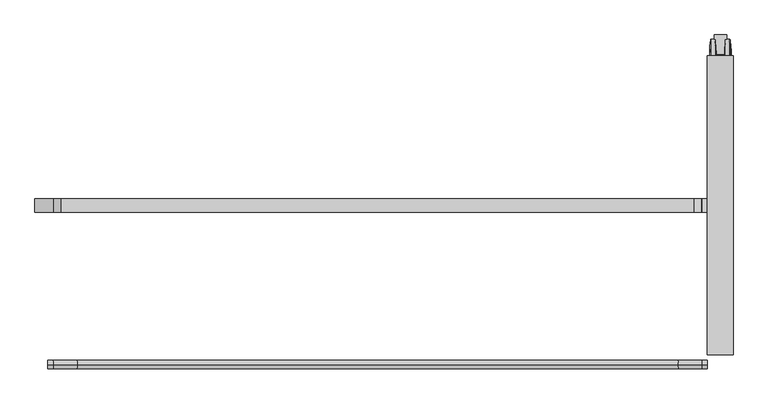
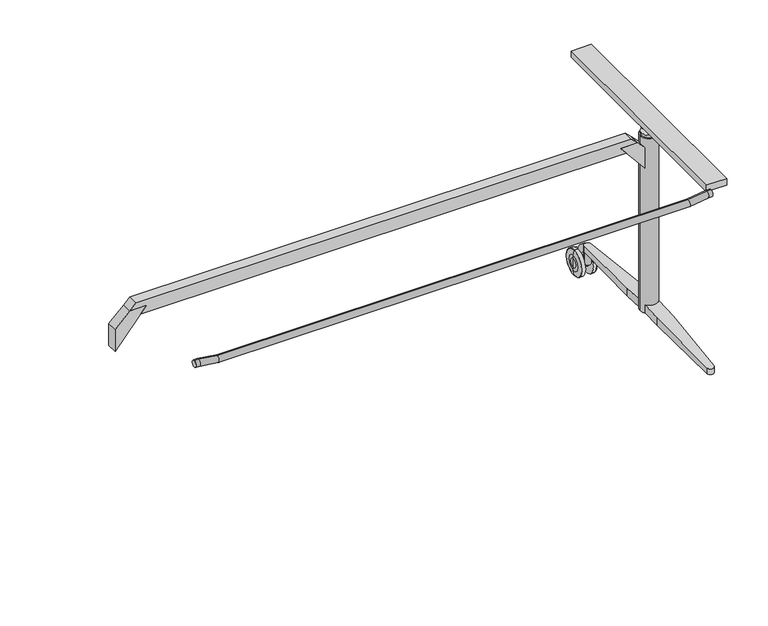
"""IFC4 building model written with IfcOpenShell, lengths in millimetres: furniture geometry, Table_Foldable_Wilkhahn_TimetableLift_Whiteboard : 1800w x 900d (615/10)."""

from ifc_helpers import new_model, si_unit, point, frame, frame_2d, origin, place, context, project, spatial, polyline, circle_curve, ellipse_curve, trimmed, segment, composite_curve, outline, extrude, source, transform, mapped, element, save
from ifc_brep_helpers import plane_surface, cylinder_surface, revolved_surface, advanced_brep


def furniture_42c79fa8(model_context):
    return source(origin(), model_context, "Body", "SolidModel", [
        advanced_brep(
        [(770.4530674, 470.9511544, 26.9613134), (770.4530674, 470.9511544, 53.0387194), (770.4530674, 470.9511544, 40.0000164), (772.5845915, 470.9511544, 0.8972162), (772.5845915, 470.9511544, 79.1028166), (771.0121742, 470.9511544, 63.8876748), (771.0121742, 470.9511544, 16.1123581), (783.5439759, 470.9511544, 1.43e-05), (783.5439759, 470.9511544, 80.0000185), (773.5792938, 470.9511544, 80.0000185), (773.5792938, 470.9511544, 1.43e-05), (785.4530966, 470.9511544, 20.9999281), (785.4530966, 470.9511544, 59.0001048), (785.4530966, 470.9511544, 32.3463502), (785.4530966, 470.9511544, 47.6536826), (805.3531174, 470.9511544, 32.3463502), (805.3531174, 470.9511544, 47.6536826), (805.3531174, 470.9511544, 20.9999281), (805.3531174, 470.9511544, 59.0001048), (807.2622381, 470.9511544, 1.43e-05), (807.2622381, 470.9511544, 80.0000185), (816.3249398, 470.9511544, 1.43e-05), (816.3249398, 470.9511544, 80.0000185), (819.7942336, 470.9511544, 16.1142331), (819.7942336, 470.9511544, 63.8857997), (818.3143443, 470.9511544, 78.2056147), (818.3143443, 470.9511544, 1.7944182), (820.3531466, 470.9511544, 40.0000164), (820.3531466, 470.9511544, 53.0406045), (820.3531466, 470.9511544, 26.9594284)],
        [
            (0, 1, circle_curve(frame((770.4530674, 470.9511544, 40.0000164), z_axis=(-1.0, 0.0, 0.0), x_axis=(0.0, 0.0, 1.0)), 13.038703)),
            (1, 2),
            (2, 0),
            (1, 0, circle_curve(frame((770.4530674, 470.9511544, 40.0000164), z_axis=(-1.0, 0.0, 0.0), x_axis=(0.0, 0.0, 1.0)), 13.038703)),
            (3, 4, circle_curve(frame((772.5845915, 470.9511544, 40.0000164), z_axis=(-1.0, 0.0, 0.0), x_axis=(0.0, 0.0, 1.0)), 39.1028002)),
            (4, 5),
            (5, 6, circle_curve(frame((771.0121742, 470.9511544, 40.0000164), z_axis=(1.0, 0.0, 0.0), x_axis=(0.0, 0.0, 1.0)), 23.8876584)),
            (6, 3),
            (4, 3, circle_curve(frame((772.5845915, 470.9511544, 40.0000164), z_axis=(-1.0, 0.0, 0.0), x_axis=(0.0, 0.0, 1.0)), 39.1028002)),
            (6, 5, circle_curve(frame((771.0121742, 470.9511544, 40.0000164), z_axis=(1.0, 0.0, 0.0), x_axis=(0.0, 0.0, 1.0)), 23.8876584)),
            (7, 8, circle_curve(frame((783.5439759, 470.9511544, 40.0000164), z_axis=(-1.0, 0.0, 0.0), x_axis=(0.0, 0.0, 1.0)), 40.0000021)),
            (8, 9),
            (9, 10, circle_curve(frame((773.5792938, 470.9511544, 40.0000164), z_axis=(1.0, 0.0, 0.0), x_axis=(0.0, 0.0, 1.0)), 40.0000021)),
            (10, 7),
            (8, 7, circle_curve(frame((783.5439759, 470.9511544, 40.0000164), z_axis=(-1.0, 0.0, 0.0), x_axis=(0.0, 0.0, 1.0)), 40.0000021)),
            (10, 9, circle_curve(frame((773.5792938, 470.9511544, 40.0000164), z_axis=(1.0, 0.0, 0.0), x_axis=(0.0, 0.0, 1.0)), 40.0000021)),
            (11, 12, circle_curve(frame((785.4530966, 470.9511544, 40.0000164), z_axis=(-1.0, 0.0, 0.0), x_axis=(0.0, 0.0, 1.0)), 19.0000883)),
            (12, 8),
            (7, 11),
            (12, 11, circle_curve(frame((785.4530966, 470.9511544, 40.0000164), z_axis=(-1.0, 0.0, 0.0), x_axis=(0.0, 0.0, 1.0)), 19.0000883)),
            (13, 14, circle_curve(frame((785.4530966, 470.9511544, 40.0000164), z_axis=(-1.0, 0.0, 0.0), x_axis=(0.0, 0.0, 1.0)), 7.6536662)),
            (14, 12),
            (11, 13),
            (14, 13, circle_curve(frame((785.4530966, 470.9511544, 40.0000164), z_axis=(-1.0, 0.0, 0.0), x_axis=(0.0, 0.0, 1.0)), 7.6536662)),
            (15, 16, circle_curve(frame((805.3531174, 470.9511544, 40.0000164), z_axis=(-1.0, 0.0, 0.0), x_axis=(0.0, 0.0, 1.0)), 7.6536662)),
            (16, 14),
            (13, 15),
            (16, 15, circle_curve(frame((805.3531174, 470.9511544, 40.0000164), z_axis=(-1.0, 0.0, 0.0), x_axis=(0.0, 0.0, 1.0)), 7.6536662)),
            (17, 18, circle_curve(frame((805.3531174, 470.9511544, 40.0000164), z_axis=(-1.0, 0.0, 0.0), x_axis=(0.0, 0.0, 1.0)), 19.0000883)),
            (18, 16),
            (15, 17),
            (18, 17, circle_curve(frame((805.3531174, 470.9511544, 40.0000164), z_axis=(-1.0, 0.0, 0.0), x_axis=(0.0, 0.0, 1.0)), 19.0000883)),
            (19, 20, circle_curve(frame((807.2622381, 470.9511544, 40.0000164), z_axis=(-1.0, 0.0, 0.0), x_axis=(0.0, 0.0, 1.0)), 40.0000021)),
            (20, 18),
            (17, 19),
            (20, 19, circle_curve(frame((807.2622381, 470.9511544, 40.0000164), z_axis=(-1.0, 0.0, 0.0), x_axis=(0.0, 0.0, 1.0)), 40.0000021)),
            (21, 22, circle_curve(frame((816.3249398, 470.9511544, 40.0000164), z_axis=(-1.0, 0.0, 0.0), x_axis=(0.0, 0.0, 1.0)), 40.0000021)),
            (22, 20),
            (19, 21),
            (22, 21, circle_curve(frame((816.3249398, 470.9511544, 40.0000164), z_axis=(-1.0, 0.0, 0.0), x_axis=(0.0, 0.0, 1.0)), 40.0000021)),
            (23, 24, circle_curve(frame((819.7942336, 470.9511544, 40.0000164), z_axis=(-1.0, 0.0, 0.0), x_axis=(0.0, 0.0, 1.0)), 23.8857833)),
            (24, 25),
            (25, 26, circle_curve(frame((818.3143443, 470.9511544, 40.0000164), z_axis=(1.0, 0.0, 0.0), x_axis=(0.0, 0.0, 1.0)), 38.2055982)),
            (26, 23),
            (24, 23, circle_curve(frame((819.7942336, 470.9511544, 40.0000164), z_axis=(-1.0, 0.0, 0.0), x_axis=(0.0, 0.0, 1.0)), 23.8857833)),
            (26, 25, circle_curve(frame((818.3143443, 470.9511544, 40.0000164), z_axis=(1.0, 0.0, 0.0), x_axis=(0.0, 0.0, 1.0)), 38.2055982)),
            (27, 28),
            (28, 29, circle_curve(frame((820.3531466, 470.9511544, 40.0000164), z_axis=(1.0, 0.0, 0.0), x_axis=(0.0, 0.0, 1.0)), 13.0405881)),
            (29, 27),
            (29, 28, circle_curve(frame((820.3531466, 470.9511544, 40.0000164), z_axis=(1.0, 0.0, 0.0), x_axis=(0.0, 0.0, 1.0)), 13.0405881)),
            (5, 1, circle_curve(frame((875.9896451, 470.9511544, 53.0387194), z_axis=(0.0, -1.0, 0.0), x_axis=(-1.0, 0.0, 0.0)), 105.5365777)),
            (0, 6, circle_curve(frame((875.9896451, 470.9511544, 26.9613134), z_axis=(0.0, -1.0, 0.0), x_axis=(-1.0, 0.0, 0.0)), 105.5365777)),
            (9, 4, circle_curve(frame((773.5792938, 470.9511544, 79.0000185), z_axis=(0.0, -1.0, 0.0), x_axis=(-1.0, 0.0, 0.0)), 1.0)),
            (3, 10, circle_curve(frame((773.5792938, 470.9511544, 1.0000143), z_axis=(0.0, -1.0, 0.0), x_axis=(-1.0, 0.0, 0.0)), 1.0)),
            (25, 22, circle_curve(frame((816.3249398, 470.9511544, 78.0000185), z_axis=(0.0, -1.0, 0.0), x_axis=(-1.0, 0.0, 0.0)), 2.0)),
            (21, 26, circle_curve(frame((816.3249398, 470.9511544, 2.0000143), z_axis=(0.0, -1.0, 0.0), x_axis=(-1.0, 0.0, 0.0)), 2.0)),
            (28, 24, circle_curve(frame((714.8531466, 470.9511544, 53.0406045), z_axis=(0.0, -1.0, 0.0), x_axis=(-1.0, 0.0, 0.0)), 105.5)),
            (23, 29, circle_curve(frame((714.8531466, 470.9511544, 26.9594284), z_axis=(0.0, -1.0, 0.0), x_axis=(-1.0, 0.0, 0.0)), 105.5)),
        ],
        [
            plane_surface(frame((770.4530674, 470.9511544, 40.0000164), z_axis=(-1.0, 0.0, 0.0), x_axis=(0.0, 0.0, 1.0))),
            revolved_surface(polyline([(771.0121742, 470.9511544, 63.8876748), (772.5845915, 470.9511544, 79.1028166)]), (836.1531192, 470.9511544, 40.0000164), (1.0, 0.0, 0.0)),
            cylinder_surface(frame((836.1531192, 470.9511544, 40.0000164), z_axis=(1.0, 0.0, 0.0), x_axis=(0.0, 0.0, 1.0)), 40.0000021),
            revolved_surface(polyline([(783.5439759, 470.9511544, 80.0000185), (785.4530966, 470.9511544, 59.0001048)]), (836.1531192, 470.9511544, 40.0000164), (1.0, 0.0, 0.0)),
            plane_surface(frame((785.4530966, 470.9511544, 40.0000164), z_axis=(1.0, 0.0, 0.0), x_axis=(0.0, 0.0, 1.0))),
            cylinder_surface(frame((836.1531192, 470.9511544, 40.0000164), z_axis=(1.0, 0.0, 0.0), x_axis=(0.0, 0.0, 1.0)), 7.6536662),
            plane_surface(frame((805.3531174, 470.9511544, 40.0000164), z_axis=(-1.0, 0.0, 0.0), x_axis=(0.0, 0.0, 1.0))),
            revolved_surface(polyline([(805.3531174, 470.9511544, 59.0001048), (807.2622381, 470.9511544, 80.0000185)]), (836.1531192, 470.9511544, 40.0000164), (1.0, 0.0, 0.0)),
            revolved_surface(polyline([(818.3143443, 470.9511544, 78.2056147), (819.7942336, 470.9511544, 63.8857997)]), (836.1531192, 470.9511544, 40.0000164), (1.0, 0.0, 0.0)),
            plane_surface(frame((820.3531466, 470.9511544, 40.0000164), z_axis=(1.0, 0.0, 0.0), x_axis=(0.0, 0.0, 1.0))),
            revolved_surface(trimmed(ellipse_curve(frame((875.9896451, 470.9511544, 53.0387194), z_axis=(0.0, 1.0, 0.0), x_axis=(-1.0, 0.0, 0.0)), 105.5365777, 105.5365777), [point((770.4530674, 470.9511544, 53.0387194))], [point((771.0121742, 470.9511544, 63.8876748))], True, "CARTESIAN"), (836.1531192, 470.9511544, 40.0000164), (1.0, 0.0, 0.0)),
            revolved_surface(trimmed(ellipse_curve(frame((773.5792938, 470.9511544, 79.0000185), z_axis=(0.0, 1.0, 0.0), x_axis=(-1.0, 0.0, 0.0)), 1.0, 1.0), [point((772.5845915, 470.9511544, 79.1028166))], [point((773.5792938, 470.9511544, 80.0000185))], True, "CARTESIAN"), (836.1531192, 470.9511544, 40.0000164), (1.0, 0.0, 0.0)),
            revolved_surface(trimmed(ellipse_curve(frame((816.3249398, 470.9511544, 78.0000185), z_axis=(0.0, 1.0, 0.0), x_axis=(-1.0, 0.0, 0.0)), 2.0, 2.0), [point((816.3249398, 470.9511544, 80.0000185))], [point((818.3143443, 470.9511544, 78.2056147))], True, "CARTESIAN"), (836.1531192, 470.9511544, 40.0000164), (1.0, 0.0, 0.0)),
            revolved_surface(trimmed(ellipse_curve(frame((714.8531466, 470.9511544, 53.0406045), z_axis=(0.0, 1.0, 0.0), x_axis=(-1.0, 0.0, 0.0)), 105.5, 105.5), [point((819.7942336, 470.9511544, 63.8857997))], [point((820.3531466, 470.9511544, 53.0406045))], True, "CARTESIAN"), (836.1531192, 470.9511544, 40.0000164), (1.0, 0.0, 0.0)),
        ],
        [
            (0, [[1, 2, 3]]),
            (0, [[4, -3, -2]]),
            (1, [[5, 6, 7, 8]]),
            (1, [[9, -8, 10, -6]]),
            (2, [[11, 12, 13, 14]]),
            (2, [[15, -14, 16, -12]]),
            (3, [[17, 18, -11, 19]]),
            (3, [[20, -19, -15, -18]]),
            (4, [[21, 22, -17, 23]]),
            (4, [[24, -23, -20, -22]]),
            (5, [[25, 26, -21, 27]]),
            (5, [[28, -27, -24, -26]]),
            (6, [[29, 30, -25, 31]]),
            (6, [[32, -31, -28, -30]]),
            (7, [[33, 34, -29, 35]]),
            (7, [[36, -35, -32, -34]]),
            (2, [[37, 38, -33, 39]]),
            (2, [[40, -39, -36, -38]]),
            (8, [[41, 42, 43, 44]]),
            (8, [[45, -44, 46, -42]]),
            (9, [[47, 48, 49]]),
            (9, [[-49, 50, -47]]),
            (10, [[-7, 51, -1, 52]]),
            (10, [[-10, -52, -4, -51]]),
            (11, [[-13, 53, -5, 54]]),
            (11, [[-16, -54, -9, -53]]),
            (12, [[-43, 55, -37, 56]]),
            (12, [[-46, -56, -40, -55]]),
            (13, [[-48, 57, -41, 58]]),
            (13, [[-50, -58, -45, -57]]),
        ],
    ),
        advanced_brep(
        [(815.0000252, 110.1174444, 100.5064747), (815.0000252, 110.1174444, 125.9916346), (815.0000252, 36.3357458, 121.2672568), (815.0000252, 36.3357458, 97.6123077), (775.0000252, 110.1174444, 125.9916346), (775.0000252, 110.1174444, 100.5064747), (775.0000252, 51.0810607, 98.1907086), (775.0000252, 51.0810607, 122.2114264), (805.336693, -188.0675149, 88.8098467), (785.2872838, -188.0675149, 88.8098467), (785.3284401, -189.0242798, 106.8370403), (805.2954923, -189.0242831, 106.8370401), (805.2954923, -189.0242831, 88.8098467), (785.3284401, -189.0242798, 88.8098467)],
        [
            (0, 1),
            (1, 2),
            (2, 3),
            (3, 0),
            (4, 5),
            (5, 6),
            (6, 7),
            (7, 4),
            (5, 0),
            (3, 8),
            (8, 9),
            (9, 6),
            (1, 4),
            (7, 10),
            (10, 11, ellipse_curve(frame((795.3119663, -188.4505156, 106.8737795), z_axis=(0.0, -0.06390097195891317, 0.9979562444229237), x_axis=(0.0, -0.9979562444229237, -0.06390097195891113)), 10.0204794, 10.0)),
            (11, 2),
            (8, 12),
            (12, 13, circle_curve(frame((795.3119663, -188.4505156, 88.8098467), z_axis=(0.0, 0.0, -1.0), x_axis=(-1.0, 0.0, 0.0)), 10.0)),
            (13, 9),
            (13, 10),
            (12, 11),
        ],
        [
            plane_surface(frame((815.0000252, 110.1174444, 100.5064747), z_axis=(1.0, 0.0, 0.0), x_axis=(0.0, 0.9992315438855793, 0.0391959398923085))),
            plane_surface(frame((775.0000252, 110.1174444, 100.5064747), z_axis=(-1.0, 0.0, 0.0), x_axis=(0.0, -0.9992315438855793, -0.0391959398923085))),
            plane_surface(frame((815.0000252, -188.0675149, 88.8098467), z_axis=(0.0, 0.0391959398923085, -0.9992315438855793), x_axis=(-1.0, 0.0, 0.0))),
            plane_surface(frame((815.0000252, 110.1174444, 125.9916346), z_axis=(0.0, -0.06390097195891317, 0.9979562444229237), x_axis=(-1.0, 0.0, 0.0))),
            plane_surface(frame((815.0000252, -199.5346363, 88.8098467), z_axis=(0.0, 0.0, -1.0), x_axis=(-1.0, 0.0, 0.0))),
            plane_surface(frame((785.3284401, -189.0242798, 234.8098558), z_axis=(-0.9990760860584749, -0.04297643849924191, 0.0), x_axis=(0.0, 0.0, -1.0))),
            cylinder_surface(frame((795.3119663, -188.4505156, -14.1901527), z_axis=(0.0, 0.0, -1.0), x_axis=(-1.0, 0.0, 0.0)), 10.0),
            plane_surface(frame((818.1772387, 110.1174444, 234.8098558), z_axis=(0.9990741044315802, -0.0430224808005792, 0.0), x_axis=(0.0, 0.0, -1.0))),
            plane_surface(frame((815.0000252, 110.1174444, 100.5064747), z_axis=(0.0, 1.0, 0.0), x_axis=(-1.0, 0.0, 0.0))),
        ],
        [
            (0, [[1, 2, 3, 4]]),
            (1, [[5, 6, 7, 8]]),
            (2, [[9, -4, 10, 11, 12, -6]]),
            (3, [[13, -8, 14, 15, 16, -2]]),
            (4, [[-11, 17, 18, 19]]),
            (5, [[20, -14, -7, -12, -19]]),
            (6, [[-20, -18, 21, -15]]),
            (7, [[-21, -17, -10, -3, -16]]),
            (8, [[-1, -9, -5, -13]]),
        ],
    ),
        advanced_brep(
        [(815.0000252, 141.7848644, 125.5064747), (815.0000252, 141.7848644, 100.5064747), (815.0000252, 215.566563, 97.6123077), (815.0000252, 215.566563, 120.8290263), (775.0000252, 141.7848644, 100.5064747), (775.0000252, 141.7848644, 125.5064747), (775.0000252, 200.8212482, 121.7638171), (775.0000252, 200.8212482, 98.1907086), (785.2872838, 439.9698238, 88.8098467), (805.336693, 439.9698238, 88.8098467), (805.2954923, 440.926592, 106.5421512), (785.3284401, 440.9265887, 106.5421514), (785.3284401, 440.9265887, 88.8098467), (805.2954923, 440.926592, 88.8098467)],
        [
            (0, 1),
            (1, 2),
            (2, 3),
            (3, 0),
            (4, 5),
            (5, 6),
            (6, 7),
            (7, 4),
            (1, 4),
            (7, 8),
            (8, 9),
            (9, 2),
            (0, 5),
            (3, 10),
            (10, 11, ellipse_curve(frame((795.3119663, 440.3528245, 106.5785257), z_axis=(0.0, 0.06326876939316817, 0.9979965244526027), x_axis=(0.0, 0.9979965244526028, -0.0632687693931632)), 10.020075, 10.0)),
            (11, 6),
            (8, 12),
            (12, 13, circle_curve(frame((795.3119663, 440.3528245, 88.8098467), z_axis=(0.0, 0.0, -1.0), x_axis=(-1.0, 0.0, 0.0)), 10.0)),
            (13, 9),
            (11, 12),
            (10, 13),
        ],
        [
            plane_surface(frame((815.0000252, 110.1174444, 100.5064747), z_axis=(1.0, 0.0, 0.0), x_axis=(0.0, 0.9992315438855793, 0.0391959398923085))),
            plane_surface(frame((775.0000252, 110.1174444, 100.5064747), z_axis=(-1.0, 0.0, 0.0), x_axis=(0.0, -0.9992315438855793, -0.0391959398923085))),
            plane_surface(frame((815.0000252, 141.7848644, 100.5064747), z_axis=(0.0, -0.039195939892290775, -0.9992315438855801), x_axis=(-1.0, 0.0, 0.0))),
            plane_surface(frame((815.0000252, 141.7848644, 125.5064747), z_axis=(0.0, -1.0, 0.0), x_axis=(-1.0, 0.0, 0.0))),
            plane_surface(frame((815.0000252, 451.4369452, 105.8758392), z_axis=(0.0, 0.06326876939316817, 0.9979965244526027), x_axis=(-1.0, 0.0, 0.0))),
            plane_surface(frame((815.0000252, 439.9698238, 88.8098467), z_axis=(0.0, 0.0, -1.0), x_axis=(-1.0, 0.0, 0.0))),
            plane_surface(frame((772.5013837, 142.7351655, 234.8098558), z_axis=(-0.999076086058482, 0.042976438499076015, 0.0), x_axis=(0.0, 0.0, -1.0))),
            cylinder_surface(frame((795.3119663, 440.3528245, -14.1901527), z_axis=(0.0, 0.0, -1.0), x_axis=(-1.0, 0.0, 0.0)), 10.0),
            plane_surface(frame((805.2954923, 440.926592, 234.8098558), z_axis=(0.9990741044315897, 0.04302248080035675, 0.0), x_axis=(0.0, 0.0, -1.0))),
        ],
        [
            (0, [[1, 2, 3, 4]]),
            (1, [[5, 6, 7, 8]]),
            (2, [[9, -8, 10, 11, 12, -2]]),
            (3, [[-1, 13, -5, -9]]),
            (4, [[-13, -4, 14, 15, 16, -6]]),
            (5, [[-11, 17, 18, 19]]),
            (6, [[20, -17, -10, -7, -16]]),
            (7, [[-20, -15, 21, -18]]),
            (8, [[-21, -14, -3, -12, -19]]),
        ],
    ),
        extrude(outline(composite_curve([segment(trimmed(circle_curve(frame_2d((795.0000252, 125.9511544)), 22.0748856), [point((817.0749108, 125.9511544))], [point((772.9251395, 125.9511544))], False, "CARTESIAN"), True, "CONTINUOUS"), segment(trimmed(circle_curve(frame_2d((795.0000252, 125.9511544)), 22.0748856), [point((772.9251395, 125.9511544))], [point((817.0749108, 125.9511544))], False, "CARTESIAN"), True, "CONTINUOUS")], self_intersect=False)), frame((0.0, 0.0, 648.5142032), z_axis=(0.0, 0.0, 1.0), x_axis=(1.0, 0.0, 0.0)), (0.0, 0.0, 1.0), 7.7231854),
        extrude(outline(polyline([(46.8012701, 809.9796901), (46.8012701, 780.8589951), (33.7579803, 783.5602115), (33.7579803, 807.2784737), (46.8012701, 809.9796901)])), frame((0.0, 470.9511544, 0.0), z_axis=(0.0, 1.0, 0.0), x_axis=(0.0, 0.0, 1.0)), (0.0, 0.0, 1.0), 50.0),
        extrude(outline(composite_curve([segment(trimmed(circle_curve(frame_2d((795.0000252, 125.9511544)), 21.8066495), [point((816.8066747, 125.9511544))], [point((773.1933756, 125.9511544))], False, "CARTESIAN"), True, "CONTINUOUS"), segment(trimmed(circle_curve(frame_2d((795.0000252, 125.9511544)), 21.8066495), [point((773.1933756, 125.9511544))], [point((816.8066747, 125.9511544))], False, "CARTESIAN"), True, "CONTINUOUS")], self_intersect=False)), frame((0.0, 0.0, 672.2302641), z_axis=(0.0, 0.0, 1.0), x_axis=(1.0, 0.0, 0.0)), (0.0, 0.0, 1.0), 12.7697121),
        extrude(outline(composite_curve([segment(trimmed(circle_curve(frame_2d((795.5388896, 440.7419216)), 9.5), [point((805.0388896, 440.7419216))], [point((786.0388896, 440.7419216))], False, "CARTESIAN"), True, "CONTINUOUS"), segment(trimmed(circle_curve(frame_2d((795.5388896, 440.7419216)), 9.5), [point((786.0388896, 440.7419216))], [point((805.0388896, 440.7419216))], False, "CARTESIAN"), True, "CONTINUOUS")], self_intersect=False)), frame((0.0, 0.0, 50.0000143), z_axis=(0.0, 0.0, 1.0), x_axis=(1.0, 0.0, 0.0)), (0.0, 0.0, 1.0), 38.8098324),
        extrude(outline(composite_curve([segment(trimmed(circle_curve(frame_2d((795.0, 125.9511544)), 26.0), [point((821.0, 125.9511544))], [point((769.0, 125.9511544))], False, "CARTESIAN"), True, "CONTINUOUS"), segment(trimmed(circle_curve(frame_2d((795.0, 125.9511544)), 26.0), [point((769.0, 125.9511544))], [point((821.0, 125.9511544))], False, "CARTESIAN"), True, "CONTINUOUS")], self_intersect=False)), frame((0.0, 0.0, 100.2652558), z_axis=(0.0, 0.0, 1.0), x_axis=(1.0, 0.0, 0.0)), (0.0, 0.0, 1.0), 548.2489474),
        extrude(outline(polyline([(659.9544603, -734.0633969), (642.2767908, -751.7410664), (642.2767908, -701.7410664), (621.0635874, -719.2634425), (621.0635874, 719.2634425), (642.2767908, 701.7410664), (642.2767908, 751.7410664), (659.9544603, 734.0633969), (659.9544603, -734.0633969)])), frame((0.0, 109.7857178, 0.0), z_axis=(0.0, 1.0, 0.0), x_axis=(0.0, 0.0, 1.0)), (0.0, 0.0, 1.0), 31.1654367),
        extrude(outline(polyline([(599.7944959, 794.2233613), (642.2767908, 751.7410664), (642.2767908, 701.7410664), (530.3144788, 794.2233613), (599.7944959, 794.2233613)])), frame((0.0, 109.7857178, 0.0), z_axis=(0.0, 1.0, 0.0), x_axis=(0.0, 0.0, 1.0)), (0.0, 0.0, 1.0), 31.1654367),
        extrude(outline(polyline([(599.0178177, -795.0000395), (529.3742049, -795.0000395), (642.2767908, -701.7410664), (642.2767908, -751.7410664), (599.0178177, -795.0000395)])), frame((0.0, 109.7857178, 0.0), z_axis=(0.0, 1.0, 0.0), x_axis=(0.0, 0.0, 1.0)), (0.0, 0.0, 1.0), 31.1654367),
        extrude(outline(polyline([(765.0000395, 472.9511544), (825.0000109, 472.9511544), (825.0000109, -221.0488456), (765.0000395, -221.0488456), (765.0000395, 472.9511544)])), frame((0.0, 0.0, 684.9999762), z_axis=(0.0, 0.0, 1.0), x_axis=(1.0, 0.0, 0.0)), (0.0, 0.0, 1.0), 20.0000238),
        advanced_brep(
        [(-765.0000395, -244.1884095, 705.4672388), (-765.0000395, -244.1884095, 685.4672388), (765.0000395, -244.1884095, 705.4672388), (765.0000395, -244.1884095, 685.4672388), (-752.0892263, -244.1884095, 705.4672388), (-753.5361626, -244.1884095, 685.4672388), (-697.0892404, -244.1884095, 697.4672184), (-698.5361767, -244.1884095, 677.4672184), (697.089229, -244.1884095, 697.4672184), (698.5361653, -244.1884095, 677.4672184), (752.0892149, -244.1884095, 705.4672388), (753.5361512, -244.1884095, 685.4672388)],
        [
            (0, 1, circle_curve(frame((-765.0000395, -244.1884095, 695.4672388), z_axis=(-1.0, 0.0, 0.0), x_axis=(0.0, 0.0, -1.0)), 10.0)),
            (1, 0, circle_curve(frame((-765.0000395, -244.1884095, 695.4672388), z_axis=(-1.0, 0.0, 0.0), x_axis=(0.0, 0.0, -1.0)), 10.0)),
            (2, 3, circle_curve(frame((765.0000395, -244.1884095, 695.4672388), z_axis=(1.0, 0.0, 0.0), x_axis=(0.0, 0.0, -1.0)), 10.0)),
            (3, 2, circle_curve(frame((765.0000395, -244.1884095, 695.4672388), z_axis=(1.0, 0.0, 0.0), x_axis=(0.0, 0.0, -1.0)), 10.0)),
            (0, 4),
            (4, 5, ellipse_curve(frame((-752.8126945, -244.1884095, 695.4672388), z_axis=(-0.9973931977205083, 0.0, 0.07215822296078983), x_axis=(-0.07215822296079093, 0.0, -0.997393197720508)), 10.0261362, 10.0)),
            (5, 1),
            (5, 4, ellipse_curve(frame((-752.8126945, -244.1884095, 695.4672388), z_axis=(-0.9973931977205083, 0.0, 0.07215822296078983), x_axis=(-0.07215822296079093, 0.0, -0.997393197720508)), 10.0261362, 10.0)),
            (4, 6),
            (6, 7, ellipse_curve(frame((-697.8127086, -244.1884095, 687.4672184), z_axis=(-0.9973931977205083, 0.0, 0.07215822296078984), x_axis=(0.07215822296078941, 0.0, 0.9973931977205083)), 10.0261362, 10.0)),
            (7, 5),
            (7, 6, ellipse_curve(frame((-697.8127086, -244.1884095, 687.4672184), z_axis=(-0.9973931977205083, 0.0, 0.07215822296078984), x_axis=(0.07215822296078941, 0.0, 0.9973931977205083)), 10.0261362, 10.0)),
            (6, 8),
            (8, 9, ellipse_curve(frame((697.8126971, -244.1884095, 687.4672184), z_axis=(-0.997393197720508, 0.0, -0.07215822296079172), x_axis=(-0.07215822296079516, 0.0, 0.9973931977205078)), 10.0261362, 10.0)),
            (9, 7),
            (9, 8, ellipse_curve(frame((697.8126971, -244.1884095, 687.4672184), z_axis=(-0.997393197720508, 0.0, -0.07215822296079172), x_axis=(-0.07215822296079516, 0.0, 0.9973931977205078)), 10.0261362, 10.0)),
            (8, 10),
            (10, 11, ellipse_curve(frame((752.812683, -244.1884095, 695.4672388), z_axis=(-0.997393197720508, 0.0, -0.0721582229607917), x_axis=(0.07215822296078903, 0.0, -0.9973931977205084)), 10.0261362, 10.0)),
            (11, 9),
            (11, 10, ellipse_curve(frame((752.812683, -244.1884095, 695.4672388), z_axis=(-0.997393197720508, 0.0, -0.0721582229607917), x_axis=(0.07215822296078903, 0.0, -0.9973931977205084)), 10.0261362, 10.0)),
            (10, 2),
            (3, 11),
        ],
        [
            plane_surface(frame((-765.0000395, -324.0488456, 665.2336856), z_axis=(-1.0, 0.0, 0.0), x_axis=(0.0, 1.0, 0.0))),
            plane_surface(frame((765.0000395, -324.0488456, 665.2336856), z_axis=(1.0, 0.0, 0.0), x_axis=(0.0, 1.0, 0.0))),
            cylinder_surface(frame((-765.0000395, -244.1884095, 695.4672388), z_axis=(-1.0, 0.0, 0.0), x_axis=(0.0, 0.0, -1.0)), 10.0),
            cylinder_surface(frame((-750.6481708, -244.1884095, 695.1523982), z_axis=(-0.989586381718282, 0.0, 0.14394024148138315), x_axis=(-0.14394024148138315, 0.0, -0.989586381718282)), 10.0),
            cylinder_surface(frame((-700.0000099, -244.1884095, 687.4672184), z_axis=(-1.0, 0.0, 0.0), x_axis=(0.0, 0.0, -1.0)), 10.0),
            cylinder_surface(frame((695.6481735, -244.1884095, 687.1523777), z_axis=(-0.9895863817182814, 0.0, -0.14394024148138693), x_axis=(0.14394024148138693, 0.0, -0.9895863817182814)), 10.0),
            cylinder_surface(frame((754.9999844, -244.1884095, 695.4672388), z_axis=(-1.0, 0.0, 0.0), x_axis=(0.0, 0.0, -1.0)), 10.0),
        ],
        [
            (0, [[1, 2]]),
            (1, [[3, 4]]),
            (2, [[-1, 5, 6, 7]]),
            (2, [[-2, -7, 8, -5]]),
            (3, [[-6, 9, 10, 11]]),
            (3, [[-8, -11, 12, -9]]),
            (4, [[-10, 13, 14, 15]]),
            (4, [[-12, -15, 16, -13]]),
            (5, [[-14, 17, 18, 19]]),
            (5, [[-16, -19, 20, -17]]),
            (6, [[-18, 21, -4, 22]]),
            (6, [[-20, -22, -3, -21]]),
        ],
    ),
    ])


if __name__ == "__main__":
    model = new_model("IFC4")
    model_context = context("Model", 3, world=origin())
    ifc_project = project(units=[si_unit("LENGTHUNIT", "METRE", prefix="MILLI")], contexts=[model_context])
    site = spatial("IfcSite", under=ifc_project)
    building = spatial("IfcBuilding", under=site)
    placement = place(None, origin())
    furniture_shape = furniture_42c79fa8(model_context)
    element("IfcFurniture", 1, ObjectType="Table_Foldable_Wilkhahn_TimetableLift_Whiteboard : 1800w x 900d (615/10)", at=placement, inside=building, context=model_context, shape_type="MappedRepresentation", body=[
        mapped(furniture_shape, transform((0.0, 0.0, 0.0), x_axis=(1.0, 0.0, 0.0), y_axis=(0.0, 1.0, 0.0), z_axis=(0.0, 0.0, 1.0))),
    ])
    save(model, "model.ifc")
